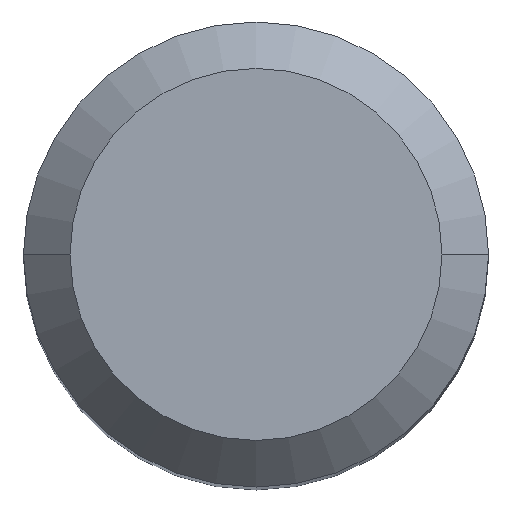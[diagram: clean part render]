
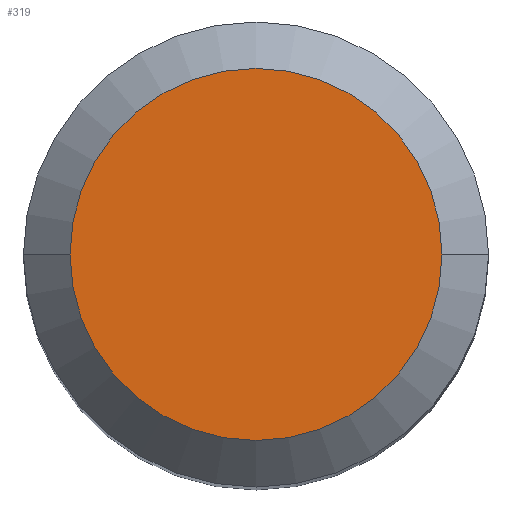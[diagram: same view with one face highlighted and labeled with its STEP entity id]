
A CAD part, top view. The second image highlights one B-rep face of the part: STEP entity #319.
In plain terms, the highlighted planar face has unit normal (0, 0, 1).
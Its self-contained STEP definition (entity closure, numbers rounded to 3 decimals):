
#71 = DIRECTION ( 'NONE',  ( -1., 0., 0. ) ) ;
#85 = CARTESIAN_POINT ( 'NONE',  ( 0., 4.8, 0. ) ) ;
#113 = CARTESIAN_POINT ( 'NONE',  ( 0., 0., 0. ) ) ;
#124 = CIRCLE ( 'NONE', #453, 4.8 ) ;
#134 = AXIS2_PLACEMENT_3D ( 'NONE', #254, #339, #71 ) ;
#140 = CARTESIAN_POINT ( 'NONE',  ( 4.8, 0., 0. ) ) ;
#163 = EDGE_CURVE ( 'NONE', #488, #203, #347, .T. ) ;
#184 = PLANE ( 'NONE',  #308 ) ;
#203 = VERTEX_POINT ( 'NONE', #392 ) ;
#212 = EDGE_CURVE ( 'NONE', #203, #488, #124, .T. ) ;
#217 = DIRECTION ( 'NONE',  ( 0., 0., 1. ) ) ;
#251 = ORIENTED_EDGE ( 'NONE', *, *, #163, .F. ) ;
#254 = CARTESIAN_POINT ( 'NONE',  ( 0., 0., 0. ) ) ;
#304 = DIRECTION ( 'NONE',  ( -1., 0., 0. ) ) ;
#308 = AXIS2_PLACEMENT_3D ( 'NONE', #85, #217, #554 ) ;
#319 = ADVANCED_FACE ( 'NONE', ( #509 ), #184, .T. ) ;
#339 = DIRECTION ( 'NONE',  ( 0., 0., -1. ) ) ;
#347 = CIRCLE ( 'NONE', #134, 4.8 ) ;
#348 = DIRECTION ( 'NONE',  ( 0., 0., -1. ) ) ;
#392 = CARTESIAN_POINT ( 'NONE',  ( -4.8, 0., 0. ) ) ;
#453 = AXIS2_PLACEMENT_3D ( 'NONE', #113, #348, #304 ) ;
#488 = VERTEX_POINT ( 'NONE', #140 ) ;
#509 = FACE_OUTER_BOUND ( 'NONE', #591, .T. ) ;
#554 = DIRECTION ( 'NONE',  ( 1., 0., 0. ) ) ;
#590 = ORIENTED_EDGE ( 'NONE', *, *, #212, .F. ) ;
#591 = EDGE_LOOP ( 'NONE', ( #590, #251 ) ) ;
